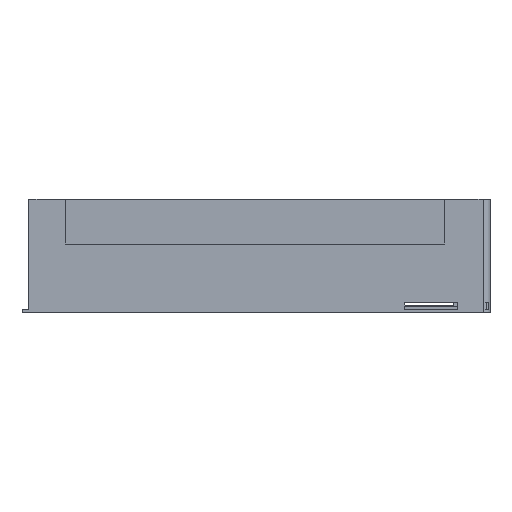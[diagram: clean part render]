
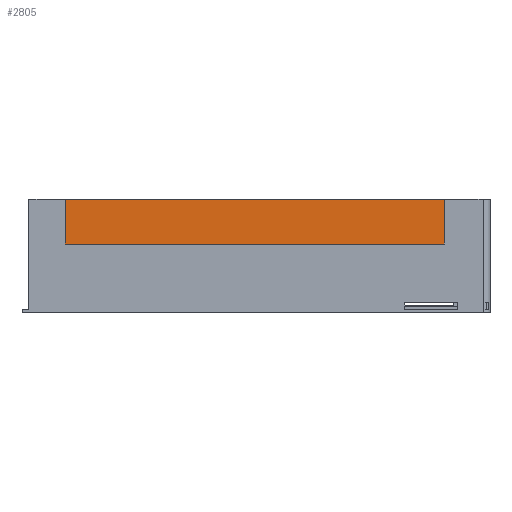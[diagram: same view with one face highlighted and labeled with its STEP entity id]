
A CAD part, left-side view. The second image highlights one B-rep face of the part: STEP entity #2805.
In plain terms, the highlighted planar face has unit normal (-1, 0, 0).
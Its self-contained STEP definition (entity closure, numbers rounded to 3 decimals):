
#44 = PLANE('',#45);
#45 = AXIS2_PLACEMENT_3D('',#46,#47,#48);
#46 = CARTESIAN_POINT('',(0.,0.,49.2));
#47 = DIRECTION('',(0.,0.,1.));
#48 = DIRECTION('',(1.,0.,0.));
#228 = PLANE('',#229);
#229 = AXIS2_PLACEMENT_3D('',#230,#231,#232);
#230 = CARTESIAN_POINT('',(-0.01,184.2,29.8));
#231 = DIRECTION('',(0.,1.,0.));
#232 = DIRECTION('',(0.,0.,1.));
#254 = PLANE('',#255);
#255 = AXIS2_PLACEMENT_3D('',#256,#257,#258);
#256 = CARTESIAN_POINT('',(-0.01,19.8,29.8));
#257 = DIRECTION('',(0.,0.,1.));
#258 = DIRECTION('',(1.,0.,0.));
#278 = PLANE('',#279);
#279 = AXIS2_PLACEMENT_3D('',#280,#281,#282);
#280 = CARTESIAN_POINT('',(-0.01,19.8,29.8));
#281 = DIRECTION('',(0.,1.,0.));
#282 = DIRECTION('',(0.,0.,1.));
#1674 = VERTEX_POINT('',#1675);
#1675 = CARTESIAN_POINT('',(2.2,184.2,49.2));
#1694 = EDGE_CURVE('',#1695,#1674,#1697,.T.);
#1695 = VERTEX_POINT('',#1696);
#1696 = CARTESIAN_POINT('',(2.2,19.8,49.2));
#1697 = SURFACE_CURVE('',#1698,(#1702,#1708),.PCURVE_S1.);
#1698 = LINE('',#1699,#1700);
#1699 = CARTESIAN_POINT('',(2.2,9.9,49.2));
#1700 = VECTOR('',#1701,1.);
#1701 = DIRECTION('',(0.,1.,0.));
#1702 = PCURVE('',#44,#1703);
#1703 = DEFINITIONAL_REPRESENTATION('',(#1704),#1707);
#1704 = B_SPLINE_CURVE_WITH_KNOTS('',1,(#1705,#1706),.UNSPECIFIED.,.F.,
  .F.,(2,2),(9.9,174.3),.PIECEWISE_BEZIER_KNOTS.);
#1705 = CARTESIAN_POINT('',(2.2,19.8));
#1706 = CARTESIAN_POINT('',(2.2,184.2));
#1707 = ( GEOMETRIC_REPRESENTATION_CONTEXT(2) 
PARAMETRIC_REPRESENTATION_CONTEXT() REPRESENTATION_CONTEXT('2D SPACE',''
  ) );
#1708 = PCURVE('',#1709,#1714);
#1709 = PLANE('',#1710);
#1710 = AXIS2_PLACEMENT_3D('',#1711,#1712,#1713);
#1711 = CARTESIAN_POINT('',(2.2,19.8,29.8));
#1712 = DIRECTION('',(1.,0.,0.));
#1713 = DIRECTION('',(0.,0.,1.));
#1714 = DEFINITIONAL_REPRESENTATION('',(#1715),#1718);
#1715 = B_SPLINE_CURVE_WITH_KNOTS('',1,(#1716,#1717),.UNSPECIFIED.,.F.,
  .F.,(2,2),(9.9,174.3),.PIECEWISE_BEZIER_KNOTS.);
#1716 = CARTESIAN_POINT('',(19.4,0.));
#1717 = CARTESIAN_POINT('',(19.4,-164.4));
#1718 = ( GEOMETRIC_REPRESENTATION_CONTEXT(2) 
PARAMETRIC_REPRESENTATION_CONTEXT() REPRESENTATION_CONTEXT('2D SPACE',''
  ) );
#1883 = VERTEX_POINT('',#1884);
#1884 = CARTESIAN_POINT('',(2.2,19.8,29.8));
#1907 = EDGE_CURVE('',#1883,#1695,#1908,.T.);
#1908 = SURFACE_CURVE('',#1909,(#1913,#1920),.PCURVE_S1.);
#1909 = LINE('',#1910,#1911);
#1910 = CARTESIAN_POINT('',(2.2,19.8,29.8));
#1911 = VECTOR('',#1912,1.);
#1912 = DIRECTION('',(0.,0.,1.));
#1913 = PCURVE('',#278,#1914);
#1914 = DEFINITIONAL_REPRESENTATION('',(#1915),#1919);
#1915 = LINE('',#1916,#1917);
#1916 = CARTESIAN_POINT('',(0.,2.21));
#1917 = VECTOR('',#1918,1.);
#1918 = DIRECTION('',(1.,0.));
#1919 = ( GEOMETRIC_REPRESENTATION_CONTEXT(2) 
PARAMETRIC_REPRESENTATION_CONTEXT() REPRESENTATION_CONTEXT('2D SPACE',''
  ) );
#1920 = PCURVE('',#1709,#1921);
#1921 = DEFINITIONAL_REPRESENTATION('',(#1922),#1926);
#1922 = LINE('',#1923,#1924);
#1923 = CARTESIAN_POINT('',(0.,0.));
#1924 = VECTOR('',#1925,1.);
#1925 = DIRECTION('',(1.,0.));
#1926 = ( GEOMETRIC_REPRESENTATION_CONTEXT(2) 
PARAMETRIC_REPRESENTATION_CONTEXT() REPRESENTATION_CONTEXT('2D SPACE',''
  ) );
#1932 = VERTEX_POINT('',#1933);
#1933 = CARTESIAN_POINT('',(2.2,184.2,29.8));
#1956 = EDGE_CURVE('',#1883,#1932,#1957,.T.);
#1957 = SURFACE_CURVE('',#1958,(#1962,#1969),.PCURVE_S1.);
#1958 = LINE('',#1959,#1960);
#1959 = CARTESIAN_POINT('',(2.2,19.8,29.8));
#1960 = VECTOR('',#1961,1.);
#1961 = DIRECTION('',(0.,1.,0.));
#1962 = PCURVE('',#254,#1963);
#1963 = DEFINITIONAL_REPRESENTATION('',(#1964),#1968);
#1964 = LINE('',#1965,#1966);
#1965 = CARTESIAN_POINT('',(2.21,0.));
#1966 = VECTOR('',#1967,1.);
#1967 = DIRECTION('',(0.,1.));
#1968 = ( GEOMETRIC_REPRESENTATION_CONTEXT(2) 
PARAMETRIC_REPRESENTATION_CONTEXT() REPRESENTATION_CONTEXT('2D SPACE',''
  ) );
#1969 = PCURVE('',#1709,#1970);
#1970 = DEFINITIONAL_REPRESENTATION('',(#1971),#1975);
#1971 = LINE('',#1972,#1973);
#1972 = CARTESIAN_POINT('',(0.,0.));
#1973 = VECTOR('',#1974,1.);
#1974 = DIRECTION('',(0.,-1.));
#1975 = ( GEOMETRIC_REPRESENTATION_CONTEXT(2) 
PARAMETRIC_REPRESENTATION_CONTEXT() REPRESENTATION_CONTEXT('2D SPACE',''
  ) );
#1983 = EDGE_CURVE('',#1932,#1674,#1984,.T.);
#1984 = SURFACE_CURVE('',#1985,(#1989,#1996),.PCURVE_S1.);
#1985 = LINE('',#1986,#1987);
#1986 = CARTESIAN_POINT('',(2.2,184.2,29.8));
#1987 = VECTOR('',#1988,1.);
#1988 = DIRECTION('',(0.,0.,1.));
#1989 = PCURVE('',#228,#1990);
#1990 = DEFINITIONAL_REPRESENTATION('',(#1991),#1995);
#1991 = LINE('',#1992,#1993);
#1992 = CARTESIAN_POINT('',(0.,2.21));
#1993 = VECTOR('',#1994,1.);
#1994 = DIRECTION('',(1.,0.));
#1995 = ( GEOMETRIC_REPRESENTATION_CONTEXT(2) 
PARAMETRIC_REPRESENTATION_CONTEXT() REPRESENTATION_CONTEXT('2D SPACE',''
  ) );
#1996 = PCURVE('',#1709,#1997);
#1997 = DEFINITIONAL_REPRESENTATION('',(#1998),#2002);
#1998 = LINE('',#1999,#2000);
#1999 = CARTESIAN_POINT('',(0.,-164.4));
#2000 = VECTOR('',#2001,1.);
#2001 = DIRECTION('',(1.,0.));
#2002 = ( GEOMETRIC_REPRESENTATION_CONTEXT(2) 
PARAMETRIC_REPRESENTATION_CONTEXT() REPRESENTATION_CONTEXT('2D SPACE',''
  ) );
#2805 = ADVANCED_FACE('',(#2806),#1709,.F.);
#2806 = FACE_BOUND('',#2807,.F.);
#2807 = EDGE_LOOP('',(#2808,#2809,#2810,#2811));
#2808 = ORIENTED_EDGE('',*,*,#1907,.F.);
#2809 = ORIENTED_EDGE('',*,*,#1956,.T.);
#2810 = ORIENTED_EDGE('',*,*,#1983,.T.);
#2811 = ORIENTED_EDGE('',*,*,#1694,.F.);
